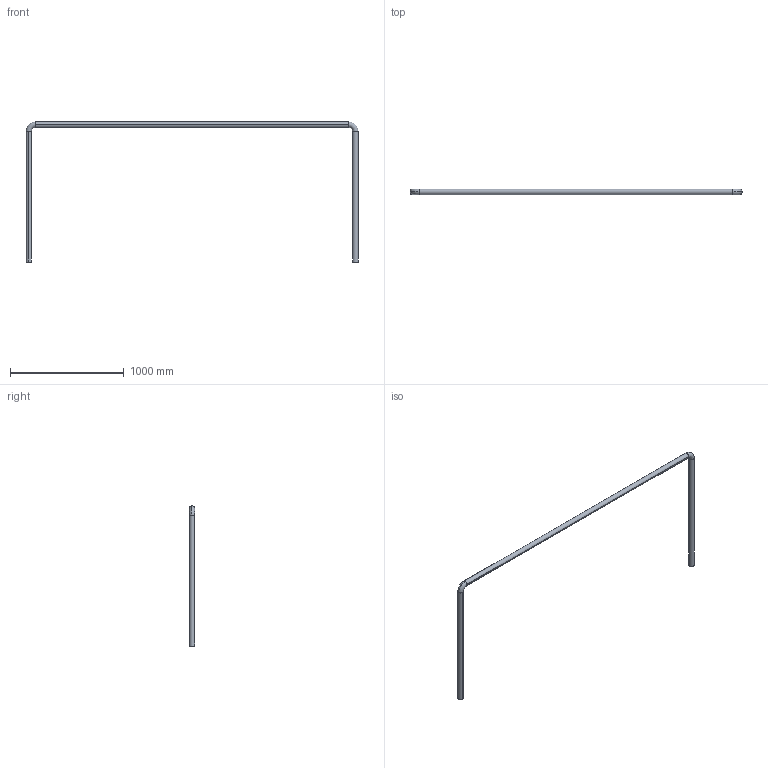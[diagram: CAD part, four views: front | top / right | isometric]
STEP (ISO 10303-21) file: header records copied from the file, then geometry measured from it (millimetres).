
FILE_DESCRIPTION (( 'STEP AP214' ), '1' );
FILE_NAME ('CCJ029-REP.329 - MAIN COURANTE GARDE CORPS AMOVIBLE A3-A4.STEP', '2025-11-04T12:59:28', ( '' ), ( '' ), 'SwSTEP 2.0', 'SolidWorks 2021', '' );
FILE_SCHEMA (( 'AUTOMOTIVE_DESIGN' ));
Length unit declared in the file: millimetre
Products named in the file (1): CCJ029-REP.329 - MAIN COURANTE GARDE CORPS AMOVIBLE A3-A4
Bounding box: 2916.3 x 48.3 x 1230 mm (x, y, z)
Volume: 1881175.6 mm3; surface area: 1505820.8 mm2
Topology: 1 solids, 1 shells, 26 faces, 68 edges, 44 vertices
Faces by surface type: cylinder 16, torus 8, plane 2
Entity records: 1134 total; most frequent: CARTESIAN_POINT 419, DIRECTION 158, ORIENTED_EDGE 136, AXIS2_PLACEMENT_3D 71, EDGE_CURVE 68, CIRCLE 44, VERTEX_POINT 44, EDGE_LOOP 32
